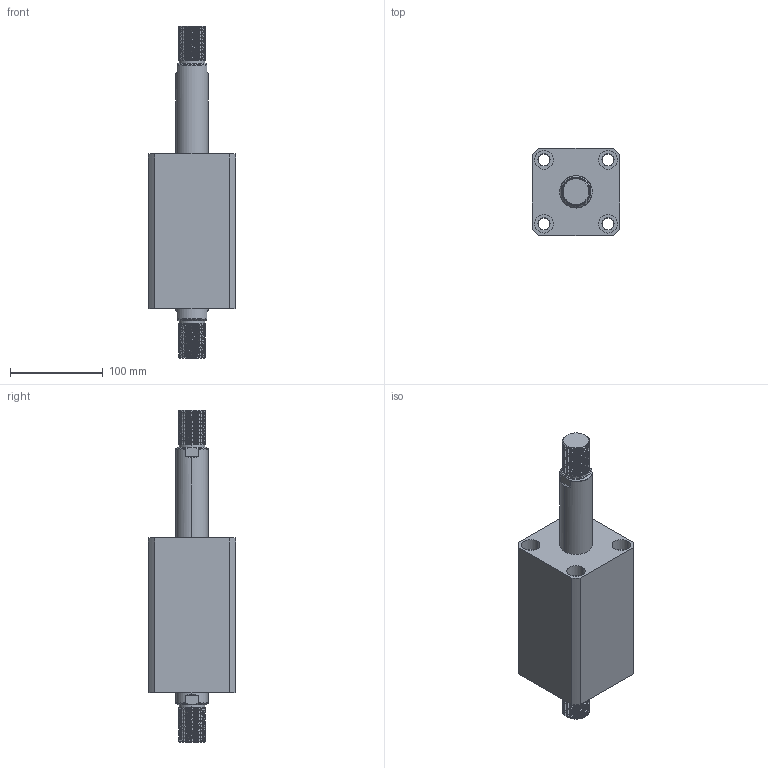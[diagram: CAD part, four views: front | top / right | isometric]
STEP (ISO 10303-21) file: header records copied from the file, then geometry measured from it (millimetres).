
FILE_DESCRIPTION (( 'STEP AP214' ), '1' );
FILE_NAME ('chtb-sw63x85w_asm.STEP', '2018-05-19T03:38:19', ( 'Windows' ), ( 'Microsoft' ), 'SwSTEP 2.0', 'SolidWorks 2015', '' );
FILE_SCHEMA (( 'AUTOMOTIVE_DESIGN' ));
Length unit declared in the file: millimetre
Products named in the file (4): chtb-sw63x85w_asm; CHTB-SW63X85WHSG; CHTB-SW63X85NBT; CHTB-63QG
Assembly tree (3 placements, depth 2):
  chtb-sw63x85w_asm
    CHTB-63QG
    CHTB-SW63X85NBT
    CHTB-SW63X85WHSG
Bounding box: 94 x 94 x 358 mm (x, y, z)
Volume: 1325405.2 mm3; surface area: 208745.4 mm2
Topology: 3 solids, 3 shells, 296 faces, 841 edges, 569 vertices
Faces by surface type: cylinder 206, plane 46, bspline 16, cone 16, torus 12
Entity records: 27380 total; most frequent: CARTESIAN_POINT 20442, ORIENTED_EDGE 1674, DIRECTION 1166, EDGE_CURVE 837, VERTEX_POINT 569, AXIS2_PLACEMENT_3D 453, EDGE_LOOP 334, ADVANCED_FACE 296
